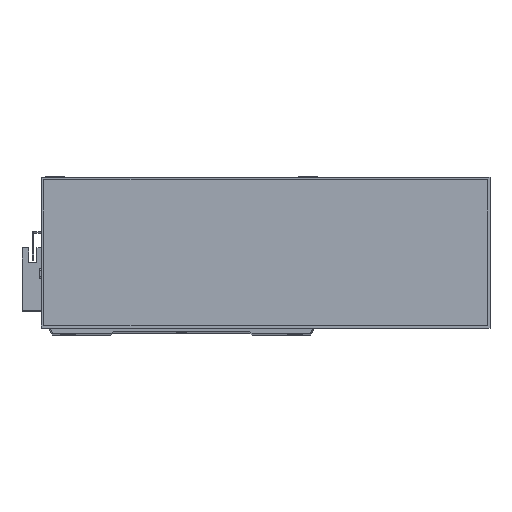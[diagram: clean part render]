
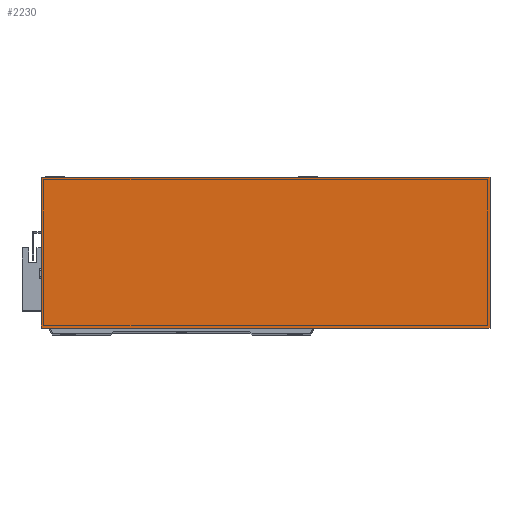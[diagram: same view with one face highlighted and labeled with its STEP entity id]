
A CAD part, top view. The second image highlights one B-rep face of the part: STEP entity #2230.
In plain terms, the highlighted planar face has unit normal (0, 0, 1).
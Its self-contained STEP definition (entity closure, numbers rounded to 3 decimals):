
#1961 = VERTEX_POINT ( 'NONE', #10989 ) ;
#2230 = ADVANCED_FACE ( 'NONE', ( #15551 ), #4140, .F. ) ;
#2842 = EDGE_LOOP ( 'NONE', ( #21878, #2843, #26897, #7878 ) ) ;
#2843 = ORIENTED_EDGE ( 'NONE', *, *, #15233, .T. ) ;
#3204 = EDGE_CURVE ( 'NONE', #9739, #5223, #22743, .T. ) ;
#3648 = DIRECTION ( 'NONE',  ( -1., 0., 0. ) ) ;
#3739 = DIRECTION ( 'NONE',  ( 0., 0., -1. ) ) ;
#3872 = CARTESIAN_POINT ( 'NONE',  ( 0., 0., 50. ) ) ;
#4140 = PLANE ( 'NONE',  #24993 ) ;
#5223 = VERTEX_POINT ( 'NONE', #6003 ) ;
#6003 = CARTESIAN_POINT ( 'NONE',  ( 0., 0., 50. ) ) ;
#6026 = LINE ( 'NONE', #20497, #16504 ) ;
#6140 = VECTOR ( 'NONE', #23423, 1000. ) ;
#6827 = EDGE_CURVE ( 'NONE', #1961, #25239, #26541, .T. ) ;
#7878 = ORIENTED_EDGE ( 'NONE', *, *, #8902, .T. ) ;
#7883 = DIRECTION ( 'NONE',  ( -1., 0., 0. ) ) ;
#8902 = EDGE_CURVE ( 'NONE', #25239, #9739, #6026, .T. ) ;
#9739 = VERTEX_POINT ( 'NONE', #10861 ) ;
#10861 = CARTESIAN_POINT ( 'NONE',  ( 0., 93., 50. ) ) ;
#10989 = CARTESIAN_POINT ( 'NONE',  ( 277., 0., 50. ) ) ;
#12270 = CARTESIAN_POINT ( 'NONE',  ( 277., 93., 50. ) ) ;
#12428 = DIRECTION ( 'NONE',  ( 0., -1., 0. ) ) ;
#12616 = CARTESIAN_POINT ( 'NONE',  ( 0., 0., 50. ) ) ;
#12835 = VECTOR ( 'NONE', #12428, 1000. ) ;
#15233 = EDGE_CURVE ( 'NONE', #5223, #1961, #22931, .T. ) ;
#15268 = VECTOR ( 'NONE', #17252, 1000. ) ;
#15551 = FACE_OUTER_BOUND ( 'NONE', #2842, .T. ) ;
#16504 = VECTOR ( 'NONE', #7883, 1000. ) ;
#17252 = DIRECTION ( 'NONE',  ( 0., 1., 0. ) ) ;
#17430 = CARTESIAN_POINT ( 'NONE',  ( 277., 0., 50. ) ) ;
#20497 = CARTESIAN_POINT ( 'NONE',  ( 0., 93., 50. ) ) ;
#21301 = CARTESIAN_POINT ( 'NONE',  ( 0., 0., 50. ) ) ;
#21878 = ORIENTED_EDGE ( 'NONE', *, *, #3204, .T. ) ;
#22743 = LINE ( 'NONE', #12616, #12835 ) ;
#22931 = LINE ( 'NONE', #21301, #6140 ) ;
#23423 = DIRECTION ( 'NONE',  ( 1., 0., 0. ) ) ;
#24993 = AXIS2_PLACEMENT_3D ( 'NONE', #3872, #3739, #3648 ) ;
#25239 = VERTEX_POINT ( 'NONE', #12270 ) ;
#26541 = LINE ( 'NONE', #17430, #15268 ) ;
#26897 = ORIENTED_EDGE ( 'NONE', *, *, #6827, .T. ) ;
